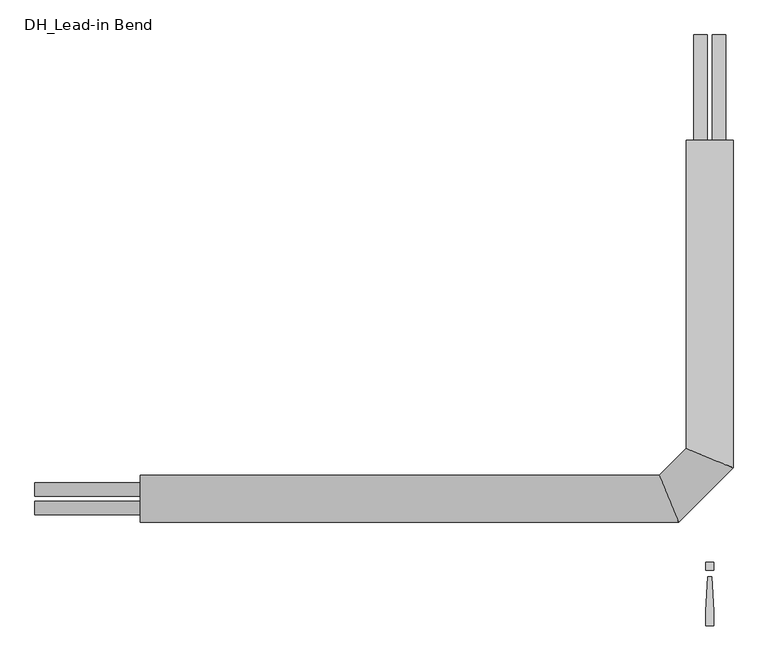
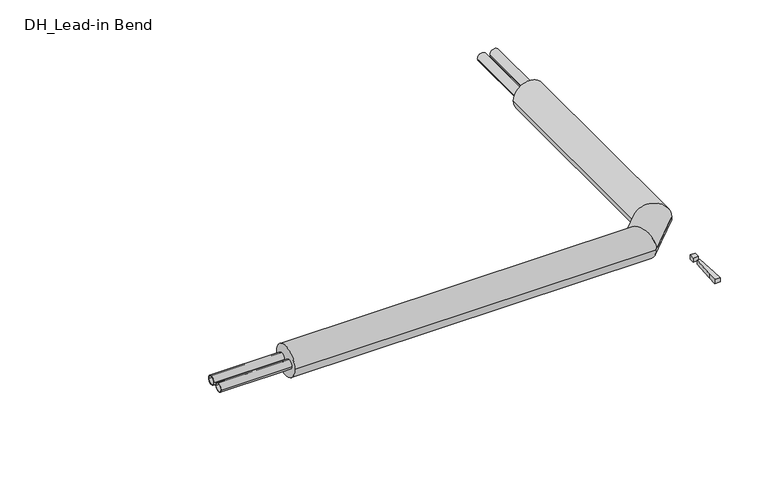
"""IFC4 building model written with IfcOpenShell, lengths in millimetres: pipe fitting geometry, DH_Lead-in Bend : RVT/RVX/RTX DUO 11 Heating Vertical."""

from ifc_helpers import new_model, si_unit, point, frame, frame_2d, origin, origin_with_axes, place, context, project, spatial, polyline, circle_curve, ellipse_curve, trimmed, segment, composite_curve, outline, extrude, source, transform, mapped, element, save
from ifc_brep_helpers import plane_surface, cylinder_surface, advanced_brep


def dh_lead_in_bend_4d10f37f(model_context):
    return source(origin(), model_context, "Body", "SolidModel", [
        extrude(outline(composite_curve([segment(trimmed(circle_curve(frame_2d((-22.0, 0.0)), 16.0), [point((-6.0, 0.0))], [point((-38.0, 0.0))], False, "CARTESIAN"), True, "CONTINUOUS"), segment(trimmed(circle_curve(frame_2d((-22.0, 0.0)), 16.0), [point((-38.0, 0.0))], [point((-6.0, 0.0))], False, "CARTESIAN"), True, "CONTINUOUS")], self_intersect=False), holes=[composite_curve([segment(trimmed(circle_curve(frame_2d((-22.0, 0.0)), 13.1), [point((-8.9, 0.0))], [point((-35.1, 0.0))], True, "CARTESIAN"), True, "CONTINUOUS"), segment(trimmed(circle_curve(frame_2d((-22.0, 0.0)), 13.1), [point((-35.1, 0.0))], [point((-8.9, 0.0))], True, "CARTESIAN"), True, "CONTINUOUS")], self_intersect=False)]), frame((-1600.0, 0.0, 0.0), z_axis=(1.0, 0.0, 0.0), x_axis=(0.0, 1.0, 0.0)), (0.0, 0.0, 1.0), 250.0),
        advanced_brep(
        [(-1350.0, -55.5, 0.0), (-1350.0, 55.5, 0.0), (-73.5111473, -55.5, 0.0), (-119.4888527, 55.5, 0.0), (55.5, 850.0, 0.0), (-55.5, 850.0, 0.0), (-55.5, 119.4888527, 0.0), (55.5, 73.5111473, 0.0)],
        [
            (0, 1, circle_curve(frame((-1350.0, 0.0, 0.0), z_axis=(-1.0, 0.0, 0.0), x_axis=(0.0, 1.0, 0.0)), 55.5)),
            (1, 0, circle_curve(frame((-1350.0, 0.0, 0.0), z_axis=(-1.0, 0.0, 0.0), x_axis=(0.0, 1.0, 0.0)), 55.5)),
            (0, 2),
            (2, 3, ellipse_curve(frame((-96.5, 0.0, 0.0), z_axis=(-0.9238795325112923, -0.38268343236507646, 0.0), x_axis=(-0.38268343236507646, 0.9238795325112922, 0.0)), 60.0727671, 55.5)),
            (3, 1),
            (3, 2, ellipse_curve(frame((-96.5, 0.0, 0.0), z_axis=(-0.9238795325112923, -0.38268343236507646, 0.0), x_axis=(-0.38268343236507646, 0.9238795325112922, 0.0)), 60.0727671, 55.5)),
            (4, 5, circle_curve(frame((0.0, 850.0, 0.0), z_axis=(0.0, 1.0, 0.0), x_axis=(-1.0, 0.0, 0.0)), 55.5)),
            (5, 4, circle_curve(frame((0.0, 850.0, 0.0), z_axis=(0.0, 1.0, 0.0), x_axis=(-1.0, 0.0, 0.0)), 55.5)),
            (6, 7, ellipse_curve(frame((0.0, 96.5, 0.0), z_axis=(0.3826834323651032, 0.9238795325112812, 0.0), x_axis=(0.9238795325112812, -0.3826834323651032, 0.0)), 60.0727671, 55.5)),
            (7, 4),
            (5, 6),
            (7, 6, ellipse_curve(frame((0.0, 96.5, 0.0), z_axis=(0.3826834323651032, 0.9238795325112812, 0.0), x_axis=(0.9238795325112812, -0.3826834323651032, 0.0)), 60.0727671, 55.5)),
            (2, 7),
            (6, 3),
        ],
        [
            plane_surface(frame((-1350.0, 0.0, 0.0), z_axis=(-1.0, 0.0, 0.0), x_axis=(0.0, 0.0, 1.0))),
            cylinder_surface(frame((-1350.0, 0.0, 0.0), z_axis=(-1.0, 0.0, 0.0), x_axis=(0.0, 1.0, 0.0)), 55.5),
            plane_surface(frame((0.0, 850.0, 0.0), z_axis=(0.0, 1.0, 0.0), x_axis=(0.0, 0.0, 1.0))),
            cylinder_surface(frame((0.0, 96.5, 0.0), z_axis=(0.0, -1.0, 0.0), x_axis=(-1.0, 0.0, 0.0)), 55.5),
            cylinder_surface(frame((-96.5, 0.0, 0.0), z_axis=(-0.707106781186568, -0.7071067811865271, 0.0), x_axis=(-0.7071067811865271, 0.707106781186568, 0.0)), 55.5),
        ],
        [
            (0, [[1, 2]]),
            (1, [[-1, 3, 4, 5]]),
            (1, [[-2, -5, 6, -3]]),
            (2, [[7, 8]]),
            (3, [[9, 10, -8, 11]]),
            (3, [[12, -11, -7, -10]]),
            (4, [[-4, 13, -9, 14]]),
            (4, [[-6, -14, -12, -13]]),
        ],
    ),
        extrude(outline(composite_curve([segment(trimmed(circle_curve(frame_2d((0.0, -22.0)), 16.0), [point((0.0, -6.0))], [point((0.0, -38.0))], False, "CARTESIAN"), True, "CONTINUOUS"), segment(trimmed(circle_curve(frame_2d((0.0, -22.0)), 16.0), [point((0.0, -38.0))], [point((0.0, -6.0))], False, "CARTESIAN"), True, "CONTINUOUS")], self_intersect=False), holes=[composite_curve([segment(trimmed(circle_curve(frame_2d((0.0, -22.0)), 13.1), [point((0.0, -8.9))], [point((0.0, -35.1))], True, "CARTESIAN"), True, "CONTINUOUS"), segment(trimmed(circle_curve(frame_2d((0.0, -22.0)), 13.1), [point((0.0, -35.1))], [point((0.0, -8.9))], True, "CARTESIAN"), True, "CONTINUOUS")], self_intersect=False)]), frame((0.0, 850.0, 0.0), z_axis=(0.0, 1.0, 0.0), x_axis=(0.0, 0.0, 1.0)), (0.0, 0.0, 1.0), 250.0),
        extrude(outline(composite_curve([segment(trimmed(circle_curve(frame_2d((22.0, 0.0)), 16.0), [point((6.0, 0.0))], [point((38.0, 0.0))], False, "CARTESIAN"), True, "CONTINUOUS"), segment(trimmed(circle_curve(frame_2d((22.0, 0.0)), 16.0), [point((38.0, 0.0))], [point((6.0, 0.0))], False, "CARTESIAN"), True, "CONTINUOUS")], self_intersect=False), holes=[composite_curve([segment(trimmed(circle_curve(frame_2d((22.0, 0.0)), 13.1), [point((8.9, 0.0))], [point((35.1, 0.0))], True, "CARTESIAN"), True, "CONTINUOUS"), segment(trimmed(circle_curve(frame_2d((22.0, 0.0)), 13.1), [point((35.1, 0.0))], [point((8.9, 0.0))], True, "CARTESIAN"), True, "CONTINUOUS")], self_intersect=False)]), frame((-1600.0, 0.0, 0.0), z_axis=(1.0, 0.0, 0.0), x_axis=(0.0, 1.0, 0.0)), (0.0, 0.0, 1.0), 250.0),
        extrude(outline(composite_curve([segment(trimmed(circle_curve(frame_2d((0.0, 22.0)), 16.0), [point((0.0, 6.0))], [point((0.0, 38.0))], False, "CARTESIAN"), True, "CONTINUOUS"), segment(trimmed(circle_curve(frame_2d((0.0, 22.0)), 16.0), [point((0.0, 38.0))], [point((0.0, 6.0))], False, "CARTESIAN"), True, "CONTINUOUS")], self_intersect=False), holes=[composite_curve([segment(trimmed(circle_curve(frame_2d((0.0, 22.0)), 13.1), [point((0.0, 8.9))], [point((0.0, 35.1))], True, "CARTESIAN"), True, "CONTINUOUS"), segment(trimmed(circle_curve(frame_2d((0.0, 22.0)), 13.1), [point((0.0, 35.1))], [point((0.0, 8.9))], True, "CARTESIAN"), True, "CONTINUOUS")], self_intersect=False)]), frame((0.0, 850.0, 0.0), z_axis=(0.0, 1.0, 0.0), x_axis=(0.0, 0.0, 1.0)), (0.0, 0.0, 1.0), 250.0),
        extrude(outline(polyline([(4.7088895, -185.3166715), (9.4177791, -266.6553807), (9.4177791, -300.6844652), (-9.4177791, -300.6844652), (-9.4177791, -266.6553807), (-4.7088895, -185.3166715), (4.7088895, -185.3166715)])), origin_with_axes(), (0.0, 0.0, 1.0), 15.0),
        extrude(outline(polyline([(9.4177791, -150.0), (9.4177791, -168.8355582), (-9.4177791, -168.8355582), (-9.4177791, -150.0), (9.4177791, -150.0)])), origin_with_axes(), (0.0, 0.0, 1.0), 15.0),
    ])


if __name__ == "__main__":
    model = new_model("IFC4")
    model_context = context("Model", 3, world=origin())
    ifc_project = project(units=[si_unit("LENGTHUNIT", "METRE", prefix="MILLI")], contexts=[model_context])
    site = spatial("IfcSite", under=ifc_project)
    building = spatial("IfcBuilding", under=site)
    placement = place(None, origin())
    dh_lead_in_bend_shape = dh_lead_in_bend_4d10f37f(model_context)
    element("IfcPipeFitting", 1, ObjectType="DH_Lead-in Bend : RVT/RVX/RTX DUO 11 Heating Vertical", at=placement, inside=building, context=model_context, shape_type="MappedRepresentation", body=[
        mapped(dh_lead_in_bend_shape, transform((0.0, 0.0, 0.0), x_axis=(1.0, 0.0, 0.0), y_axis=(0.0, 1.0, 0.0), z_axis=(0.0, 0.0, 1.0))),
    ])
    save(model, "model.ifc")
